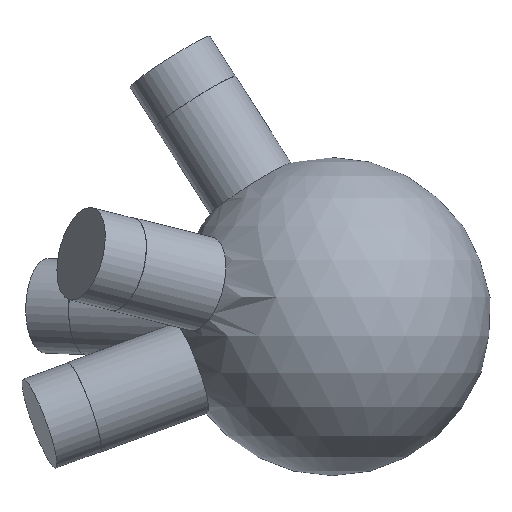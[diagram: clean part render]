
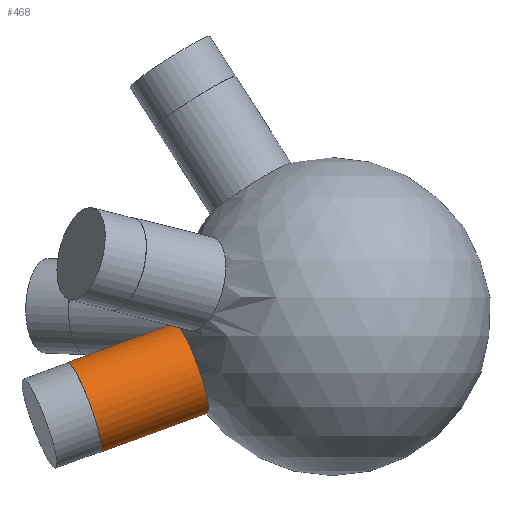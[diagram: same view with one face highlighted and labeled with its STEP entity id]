
A CAD part, left-side view. The second image highlights one B-rep face of the part: STEP entity #468.
In plain terms, the highlighted cylindrical face has radius 6 mm (diameter 12 mm), a full revolution.
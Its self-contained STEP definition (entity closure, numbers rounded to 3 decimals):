
#35 = SPHERICAL_SURFACE('',#36,20.);
#36 = AXIS2_PLACEMENT_3D('',#37,#38,#39);
#37 = CARTESIAN_POINT('',(0.,0.,0.));
#38 = DIRECTION('',(0.,0.,1.));
#39 = DIRECTION('',(1.,0.,-0.));
#116 = EDGE_CURVE('',#117,#117,#119,.T.);
#117 = VERTEX_POINT('',#118);
#118 = CARTESIAN_POINT('',(-2.783,19.787,
    -0.849));
#119 = SURFACE_CURVE('',#120,(#125,#194),.PCURVE_S1.);
#120 = CIRCLE('',#121,6.);
#121 = AXIS2_PLACEMENT_3D('',#122,#123,#124);
#122 = CARTESIAN_POINT('',(-2.783,17.726,
    -6.484));
#123 = DIRECTION('',(-0.146,0.929,-0.34));
#124 = DIRECTION('',(0.,0.344,0.939));
#125 = PCURVE('',#35,#126);
#126 = DEFINITIONAL_REPRESENTATION('',(#127),#193);
#127 = B_SPLINE_CURVE_WITH_KNOTS('',8,(#128,#129,#130,#131,#132,#133,
    #134,#135,#136,#137,#138,#139,#140,#141,#142,#143,#144,#145,#146,
    #147,#148,#149,#150,#151,#152,#153,#154,#155,#156,#157,#158,#159,
    #160,#161,#162,#163,#164,#165,#166,#167,#168,#169,#170,#171,#172,
    #173,#174,#175,#176,#177,#178,#179,#180,#181,#182,#183,#184,#185,
    #186,#187,#188,#189,#190,#191,#192),.UNSPECIFIED.,.F.,.F.,(9,7,7,7,7
    ,7,7,7,7,9),(0.,0.785,1.473,2.074,
    2.6,3.06,3.866,4.47,
    5.377,6.283),.UNSPECIFIED.);
#128 = CARTESIAN_POINT('',(1.711,-0.042));
#129 = CARTESIAN_POINT('',(1.681,-0.044));
#130 = CARTESIAN_POINT('',(1.652,-0.049));
#131 = CARTESIAN_POINT('',(1.623,-0.056));
#132 = CARTESIAN_POINT('',(1.595,-0.067));
#133 = CARTESIAN_POINT('',(1.569,-0.08));
#134 = CARTESIAN_POINT('',(1.544,-0.097));
#135 = CARTESIAN_POINT('',(1.52,-0.115));
#136 = CARTESIAN_POINT('',(1.481,-0.154));
#137 = CARTESIAN_POINT('',(1.464,-0.174));
#138 = CARTESIAN_POINT('',(1.449,-0.195));
#139 = CARTESIAN_POINT('',(1.436,-0.218));
#140 = CARTESIAN_POINT('',(1.425,-0.242));
#141 = CARTESIAN_POINT('',(1.416,-0.266));
#142 = CARTESIAN_POINT('',(1.41,-0.291));
#143 = CARTESIAN_POINT('',(1.402,-0.339));
#144 = CARTESIAN_POINT('',(1.4,-0.362));
#145 = CARTESIAN_POINT('',(1.401,-0.384));
#146 = CARTESIAN_POINT('',(1.403,-0.407));
#147 = CARTESIAN_POINT('',(1.407,-0.429));
#148 = CARTESIAN_POINT('',(1.414,-0.451));
#149 = CARTESIAN_POINT('',(1.422,-0.472));
#150 = CARTESIAN_POINT('',(1.443,-0.511));
#151 = CARTESIAN_POINT('',(1.454,-0.528));
#152 = CARTESIAN_POINT('',(1.467,-0.545));
#153 = CARTESIAN_POINT('',(1.481,-0.56));
#154 = CARTESIAN_POINT('',(1.497,-0.575));
#155 = CARTESIAN_POINT('',(1.515,-0.588));
#156 = CARTESIAN_POINT('',(1.534,-0.6));
#157 = CARTESIAN_POINT('',(1.572,-0.62));
#158 = CARTESIAN_POINT('',(1.59,-0.628));
#159 = CARTESIAN_POINT('',(1.61,-0.635));
#160 = CARTESIAN_POINT('',(1.63,-0.641));
#161 = CARTESIAN_POINT('',(1.651,-0.646));
#162 = CARTESIAN_POINT('',(1.673,-0.649));
#163 = CARTESIAN_POINT('',(1.694,-0.651));
#164 = CARTESIAN_POINT('',(1.754,-0.652));
#165 = CARTESIAN_POINT('',(1.792,-0.649));
#166 = CARTESIAN_POINT('',(1.83,-0.642));
#167 = CARTESIAN_POINT('',(1.865,-0.631));
#168 = CARTESIAN_POINT('',(1.898,-0.616));
#169 = CARTESIAN_POINT('',(1.928,-0.597));
#170 = CARTESIAN_POINT('',(1.954,-0.576));
#171 = CARTESIAN_POINT('',(1.993,-0.535));
#172 = CARTESIAN_POINT('',(2.008,-0.516));
#173 = CARTESIAN_POINT('',(2.021,-0.496));
#174 = CARTESIAN_POINT('',(2.031,-0.476));
#175 = CARTESIAN_POINT('',(2.039,-0.454));
#176 = CARTESIAN_POINT('',(2.045,-0.432));
#177 = CARTESIAN_POINT('',(2.049,-0.409));
#178 = CARTESIAN_POINT('',(2.053,-0.353));
#179 = CARTESIAN_POINT('',(2.051,-0.319));
#180 = CARTESIAN_POINT('',(2.045,-0.285));
#181 = CARTESIAN_POINT('',(2.034,-0.252));
#182 = CARTESIAN_POINT('',(2.02,-0.22));
#183 = CARTESIAN_POINT('',(2.002,-0.191));
#184 = CARTESIAN_POINT('',(1.981,-0.163));
#185 = CARTESIAN_POINT('',(1.933,-0.115));
#186 = CARTESIAN_POINT('',(1.906,-0.093));
#187 = CARTESIAN_POINT('',(1.877,-0.075));
#188 = CARTESIAN_POINT('',(1.845,-0.06));
#189 = CARTESIAN_POINT('',(1.812,-0.05));
#190 = CARTESIAN_POINT('',(1.779,-0.043));
#191 = CARTESIAN_POINT('',(1.745,-0.041));
#192 = CARTESIAN_POINT('',(1.711,-0.042));
#193 = ( GEOMETRIC_REPRESENTATION_CONTEXT(2) 
PARAMETRIC_REPRESENTATION_CONTEXT() REPRESENTATION_CONTEXT('2D SPACE',''
  ) );
#194 = PCURVE('',#195,#200);
#195 = CYLINDRICAL_SURFACE('',#196,6.);
#196 = AXIS2_PLACEMENT_3D('',#197,#198,#199);
#197 = CARTESIAN_POINT('',(0.,0.,0.));
#198 = DIRECTION('',(-0.146,0.929,-0.34));
#199 = DIRECTION('',(0.,0.344,0.939));
#200 = DEFINITIONAL_REPRESENTATION('',(#201),#205);
#201 = LINE('',#202,#203);
#202 = CARTESIAN_POINT('',(0.,19.079));
#203 = VECTOR('',#204,1.);
#204 = DIRECTION('',(1.,0.));
#205 = ( GEOMETRIC_REPRESENTATION_CONTEXT(2) 
PARAMETRIC_REPRESENTATION_CONTEXT() REPRESENTATION_CONTEXT('2D SPACE',''
  ) );
#468 = ADVANCED_FACE('',(#469),#195,.T.);
#469 = FACE_BOUND('',#470,.T.);
#470 = EDGE_LOOP('',(#471,#494,#521,#522));
#471 = ORIENTED_EDGE('',*,*,#472,.T.);
#472 = EDGE_CURVE('',#117,#473,#475,.T.);
#473 = VERTEX_POINT('',#474);
#474 = CARTESIAN_POINT('',(-4.899,33.263,
    -5.778));
#475 = SEAM_CURVE('',#476,(#480,#487),.PCURVE_S1.);
#476 = LINE('',#477,#478);
#477 = CARTESIAN_POINT('',(0.,2.061,
    5.635));
#478 = VECTOR('',#479,1.);
#479 = DIRECTION('',(-0.146,0.929,-0.34));
#480 = PCURVE('',#195,#481);
#481 = DEFINITIONAL_REPRESENTATION('',(#482),#486);
#482 = LINE('',#483,#484);
#483 = CARTESIAN_POINT('',(6.283,-0.));
#484 = VECTOR('',#485,1.);
#485 = DIRECTION('',(0.,1.));
#486 = ( GEOMETRIC_REPRESENTATION_CONTEXT(2) 
PARAMETRIC_REPRESENTATION_CONTEXT() REPRESENTATION_CONTEXT('2D SPACE',''
  ) );
#487 = PCURVE('',#195,#488);
#488 = DEFINITIONAL_REPRESENTATION('',(#489),#493);
#489 = LINE('',#490,#491);
#490 = CARTESIAN_POINT('',(0.,-0.));
#491 = VECTOR('',#492,1.);
#492 = DIRECTION('',(0.,1.));
#493 = ( GEOMETRIC_REPRESENTATION_CONTEXT(2) 
PARAMETRIC_REPRESENTATION_CONTEXT() REPRESENTATION_CONTEXT('2D SPACE',''
  ) );
#494 = ORIENTED_EDGE('',*,*,#495,.F.);
#495 = EDGE_CURVE('',#473,#473,#496,.T.);
#496 = SURFACE_CURVE('',#497,(#502,#509),.PCURVE_S1.);
#497 = CIRCLE('',#498,6.);
#498 = AXIS2_PLACEMENT_3D('',#499,#500,#501);
#499 = CARTESIAN_POINT('',(-4.899,31.202,-11.413
    ));
#500 = DIRECTION('',(-0.146,0.929,-0.34));
#501 = DIRECTION('',(0.,0.344,0.939));
#502 = PCURVE('',#195,#503);
#503 = DEFINITIONAL_REPRESENTATION('',(#504),#508);
#504 = LINE('',#505,#506);
#505 = CARTESIAN_POINT('',(0.,33.583));
#506 = VECTOR('',#507,1.);
#507 = DIRECTION('',(1.,0.));
#508 = ( GEOMETRIC_REPRESENTATION_CONTEXT(2) 
PARAMETRIC_REPRESENTATION_CONTEXT() REPRESENTATION_CONTEXT('2D SPACE',''
  ) );
#509 = PCURVE('',#510,#515);
#510 = PLANE('',#511);
#511 = AXIS2_PLACEMENT_3D('',#512,#513,#514);
#512 = CARTESIAN_POINT('',(-4.899,31.202,-11.413
    ));
#513 = DIRECTION('',(-0.146,0.929,-0.34));
#514 = DIRECTION('',(0.,0.344,0.939));
#515 = DEFINITIONAL_REPRESENTATION('',(#516),#520);
#516 = CIRCLE('',#517,6.);
#517 = AXIS2_PLACEMENT_2D('',#518,#519);
#518 = CARTESIAN_POINT('',(0.,0.));
#519 = DIRECTION('',(1.,0.));
#520 = ( GEOMETRIC_REPRESENTATION_CONTEXT(2) 
PARAMETRIC_REPRESENTATION_CONTEXT() REPRESENTATION_CONTEXT('2D SPACE',''
  ) );
#521 = ORIENTED_EDGE('',*,*,#472,.F.);
#522 = ORIENTED_EDGE('',*,*,#116,.T.);
